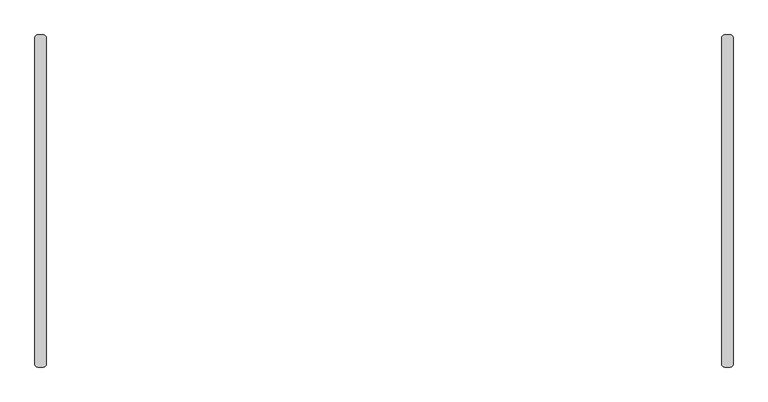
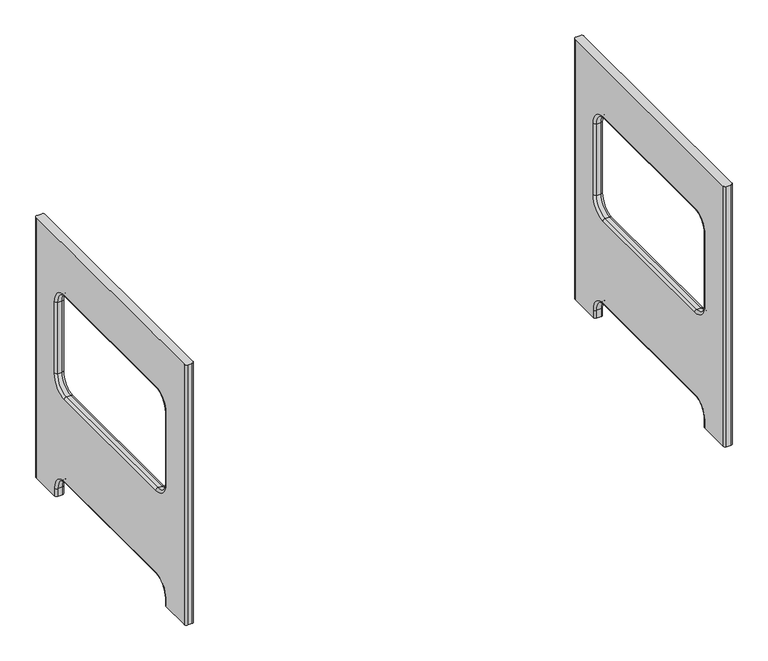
"""IFC4 building model written with IfcOpenShell, lengths in millimetres: furniture geometry, SSL-Childcraft_Outdoor-Table-Rectangle : 2161362."""

from ifc_helpers import new_model, si_unit, point, frame, origin, place, context, project, spatial, polyline, circle_curve, ellipse_curve, trimmed, source, transform, mapped, element, save
from ifc_brep_helpers import plane_surface, cylinder_surface, revolved_surface, advanced_brep


def furniture_fb746d1f(model_context):
    return source(origin(), model_context, "Body", "AdvancedBrep", [
        advanced_brep(
        [(-573.0875, 279.4, 590.55), (-582.6125, 279.4, 590.55), (-587.375, 274.6375, 590.55), (-587.375, -274.6375, 590.55), (-582.6125, -279.4, 590.55), (-573.0875, -279.4, 590.55), (-568.325, -274.6375, 590.55), (-568.325, 274.6375, 590.55), (-573.0875, 279.4, 0.0), (-568.325, 274.6375, 0.0), (-568.325, 207.16875, 0.0), (-573.0875, 202.40625, 0.0), (-582.6125, 202.40625, 0.0), (-587.375, 207.16875, 0.0), (-587.375, 274.6375, 0.0), (-582.6125, 279.4, 0.0), (-573.0875, -279.4, 0.0), (-582.6125, -279.4, 0.0), (-587.375, -274.6375, 0.0), (-587.375, -207.16875, 0.0), (-582.6125, -202.40625, 0.0), (-573.0875, -202.40625, 0.0), (-568.325, -207.16875, 0.0), (-568.325, -274.6375, 0.0), (-587.375, 207.16875, 17.4625), (-587.375, 169.8625, 54.76875), (-587.375, -169.8625, 54.76875), (-587.375, -207.16875, 17.4625), (-587.375, -169.8625, 477.04375), (-587.375, -207.16875, 439.7375), (-587.375, -207.16875, 277.8125), (-587.375, -169.8625, 240.50625), (-587.375, 169.8625, 240.50625), (-587.375, 207.16875, 277.8125), (-587.375, 207.16875, 439.7375), (-587.375, 169.8625, 477.04375), (-568.325, -207.16875, 17.4625), (-568.325, -169.8625, 54.76875), (-568.325, 169.8625, 54.76875), (-568.325, 207.16875, 17.4625), (-568.325, -207.16875, 439.7375), (-568.325, -169.8625, 477.04375), (-568.325, 169.8625, 477.04375), (-568.325, 207.16875, 439.7375), (-568.325, 207.16875, 277.8125), (-568.325, 169.8625, 240.50625), (-568.325, -169.8625, 240.50625), (-568.325, -207.16875, 277.8125), (-582.6125, -202.40625, 17.4625), (-573.0875, -202.40625, 17.4625), (-582.6125, -169.8625, 50.00625), (-573.0875, -169.8625, 50.00625), (-582.6125, 169.8625, 50.00625), (-573.0875, 169.8625, 50.00625), (-582.6125, 202.40625, 17.4625), (-573.0875, 202.40625, 17.4625), (-573.0875, -202.40625, 439.7375), (-573.0875, -169.8625, 472.28125), (-582.6125, -202.40625, 439.7375), (-582.6125, -169.8625, 472.28125), (-573.0875, -202.40625, 277.8125), (-582.6125, -202.40625, 277.8125), (-573.0875, -169.8625, 245.26875), (-582.6125, -169.8625, 245.26875), (-573.0875, 169.8625, 245.26875), (-582.6125, 169.8625, 245.26875), (-573.0875, 202.40625, 277.8125), (-582.6125, 202.40625, 277.8125), (-573.0875, 202.40625, 439.7375), (-582.6125, 202.40625, 439.7375), (-573.0875, 169.8625, 472.28125), (-582.6125, 169.8625, 472.28125)],
        [
            (0, 1),
            (1, 2, circle_curve(frame((-582.6125, 274.6375, 590.55), z_axis=(0.0, 0.0, 1.0), x_axis=(1.0, 0.0, 0.0)), 4.7625)),
            (2, 3),
            (3, 4, circle_curve(frame((-582.6125, -274.6375, 590.55), z_axis=(0.0, 0.0, 1.0), x_axis=(1.0, 0.0, 0.0)), 4.7625)),
            (4, 5),
            (5, 6, circle_curve(frame((-573.0875, -274.6375, 590.55), z_axis=(0.0, 0.0, 1.0), x_axis=(1.0, 0.0, 0.0)), 4.7625)),
            (6, 7),
            (7, 0, circle_curve(frame((-573.0875, 274.6375, 590.55), z_axis=(0.0, 0.0, 1.0), x_axis=(1.0, 0.0, 0.0)), 4.7625)),
            (8, 9, circle_curve(frame((-573.0875, 274.6375, 0.0), z_axis=(0.0, 0.0, -1.0), x_axis=(1.0, 0.0, 0.0)), 4.7625)),
            (9, 10),
            (10, 11, circle_curve(frame((-573.0875, 207.16875, 0.0), z_axis=(0.0, 0.0, -1.0), x_axis=(0.0, 1.0, 0.0)), 4.7625)),
            (11, 12),
            (12, 13, circle_curve(frame((-582.6125, 207.16875, 0.0), z_axis=(0.0, 0.0, -1.0), x_axis=(0.0, 1.0, 0.0)), 4.7625)),
            (13, 14),
            (14, 15, circle_curve(frame((-582.6125, 274.6375, 0.0), z_axis=(0.0, 0.0, -1.0), x_axis=(1.0, 0.0, 0.0)), 4.7625)),
            (15, 8),
            (16, 17),
            (17, 18, circle_curve(frame((-582.6125, -274.6375, 0.0), z_axis=(0.0, 0.0, -1.0), x_axis=(1.0, 0.0, 0.0)), 4.7625)),
            (18, 19),
            (19, 20, circle_curve(frame((-582.6125, -207.16875, 0.0), z_axis=(0.0, 0.0, -1.0), x_axis=(0.0, -1.0, 0.0)), 4.7625)),
            (20, 21),
            (21, 22, circle_curve(frame((-573.0875, -207.16875, 0.0), z_axis=(0.0, 0.0, -1.0), x_axis=(0.0, -1.0, 0.0)), 4.7625)),
            (22, 23),
            (23, 16, circle_curve(frame((-573.0875, -274.6375, 0.0), z_axis=(0.0, 0.0, -1.0), x_axis=(1.0, 0.0, 0.0)), 4.7625)),
            (0, 8),
            (15, 1),
            (14, 2),
            (13, 24),
            (24, 25, circle_curve(frame((-587.375, 169.8625, 17.4625), z_axis=(1.0, 0.0, 0.0), x_axis=(0.0, 0.0, 1.0)), 37.30625)),
            (25, 26),
            (26, 27, circle_curve(frame((-587.375, -169.8625, 17.4625), z_axis=(1.0, 0.0, 0.0), x_axis=(0.0, -1.0, 0.0)), 37.30625)),
            (27, 19),
            (18, 3),
            (28, 29, circle_curve(frame((-587.375, -169.8625, 439.7375), z_axis=(1.0, 0.0, 0.0), x_axis=(0.0, 0.0, 1.0)), 37.30625)),
            (29, 30),
            (30, 31, circle_curve(frame((-587.375, -169.8625, 277.8125), z_axis=(1.0, 0.0, 0.0), x_axis=(0.0, -1.0, 0.0)), 37.30625)),
            (31, 32),
            (32, 33, circle_curve(frame((-587.375, 169.8625, 277.8125), z_axis=(1.0, 0.0, 0.0), x_axis=(0.0, 0.0, -1.0)), 37.30625)),
            (33, 34),
            (34, 35, circle_curve(frame((-587.375, 169.8625, 439.7375), z_axis=(1.0, 0.0, 0.0), x_axis=(0.0, 1.0, 0.0)), 37.30625)),
            (35, 28),
            (9, 7),
            (6, 23),
            (22, 36),
            (36, 37, circle_curve(frame((-568.325, -169.8625, 17.4625), z_axis=(-1.0, 0.0, 0.0), x_axis=(0.0, -1.0, 0.0)), 37.30625)),
            (37, 38),
            (38, 39, circle_curve(frame((-568.325, 169.8625, 17.4625), z_axis=(-1.0, 0.0, 0.0), x_axis=(0.0, 0.0, 1.0)), 37.30625)),
            (39, 10),
            (40, 41, circle_curve(frame((-568.325, -169.8625, 439.7375), z_axis=(-1.0, 0.0, 0.0), x_axis=(0.0, 0.0, 1.0)), 37.30625)),
            (41, 42),
            (42, 43, circle_curve(frame((-568.325, 169.8625, 439.7375), z_axis=(-1.0, 0.0, 0.0), x_axis=(0.0, 1.0, 0.0)), 37.30625)),
            (43, 44),
            (44, 45, circle_curve(frame((-568.325, 169.8625, 277.8125), z_axis=(-1.0, 0.0, 0.0), x_axis=(0.0, 0.0, -1.0)), 37.30625)),
            (45, 46),
            (46, 47, circle_curve(frame((-568.325, -169.8625, 277.8125), z_axis=(-1.0, 0.0, 0.0), x_axis=(0.0, -1.0, 0.0)), 37.30625)),
            (47, 40),
            (5, 16),
            (17, 4),
            (27, 48, circle_curve(frame((-582.6125, -207.16875, 17.4625), z_axis=(0.0, 0.0, -1.0), x_axis=(0.0, -1.0, 0.0)), 4.7625)),
            (48, 20),
            (48, 49),
            (49, 21),
            (49, 36, circle_curve(frame((-573.0875, -207.16875, 17.4625), z_axis=(0.0, 0.0, -1.0), x_axis=(0.0, -1.0, 0.0)), 4.7625)),
            (26, 50, circle_curve(frame((-582.6125, -169.8625, 54.76875), z_axis=(0.0, -1.0, 0.0), x_axis=(0.0, 0.0, 1.0)), 4.7625)),
            (50, 48, circle_curve(frame((-582.6125, -169.8625, 17.4625), z_axis=(1.0, 0.0, 0.0), x_axis=(0.0, -1.0, 0.0)), 32.54375)),
            (50, 51),
            (51, 49, circle_curve(frame((-573.0875, -169.8625, 17.4625), z_axis=(1.0, 0.0, 0.0), x_axis=(0.0, -1.0, 0.0)), 32.54375)),
            (51, 37, circle_curve(frame((-573.0875, -169.8625, 54.76875), z_axis=(0.0, -1.0, 0.0), x_axis=(0.0, 0.0, 1.0)), 4.7625)),
            (25, 52, circle_curve(frame((-582.6125, 169.8625, 54.76875), z_axis=(0.0, -1.0, 0.0), x_axis=(0.0, 0.0, 1.0)), 4.7625)),
            (52, 50),
            (52, 53),
            (53, 51),
            (53, 38, circle_curve(frame((-573.0875, 169.8625, 54.76875), z_axis=(0.0, -1.0, 0.0), x_axis=(0.0, 0.0, 1.0)), 4.7625)),
            (24, 54, circle_curve(frame((-582.6125, 207.16875, 17.4625), z_axis=(0.0, 0.0, 1.0), x_axis=(0.0, 1.0, 0.0)), 4.7625)),
            (54, 52, circle_curve(frame((-582.6125, 169.8625, 17.4625), z_axis=(1.0, 0.0, 0.0), x_axis=(0.0, 0.0, 1.0)), 32.54375)),
            (54, 55),
            (55, 53, circle_curve(frame((-573.0875, 169.8625, 17.4625), z_axis=(1.0, 0.0, 0.0), x_axis=(0.0, 0.0, 1.0)), 32.54375)),
            (55, 39, circle_curve(frame((-573.0875, 207.16875, 17.4625), z_axis=(0.0, 0.0, 1.0), x_axis=(0.0, 1.0, 0.0)), 4.7625)),
            (12, 54),
            (11, 55),
            (56, 57, circle_curve(frame((-573.0875, -169.8625, 439.7375), z_axis=(-1.0, 0.0, 0.0), x_axis=(0.0, 0.0, 1.0)), 32.54375)),
            (57, 41, circle_curve(frame((-573.0875, -169.8625, 477.04375), z_axis=(0.0, -1.0, 0.0), x_axis=(0.0, 0.0, -1.0)), 4.7625)),
            (40, 56, circle_curve(frame((-573.0875, -207.16875, 439.7375), z_axis=(0.0, 0.0, 1.0), x_axis=(0.0, 1.0, 0.0)), 4.7625)),
            (56, 58),
            (58, 59, circle_curve(frame((-582.6125, -169.8625, 439.7375), z_axis=(-1.0, 0.0, 0.0), x_axis=(0.0, 0.0, 1.0)), 32.54375)),
            (59, 57),
            (58, 29, circle_curve(frame((-582.6125, -207.16875, 439.7375), z_axis=(0.0, 0.0, 1.0), x_axis=(0.0, 1.0, 0.0)), 4.7625)),
            (28, 59, circle_curve(frame((-582.6125, -169.8625, 477.04375), z_axis=(0.0, -1.0, 0.0), x_axis=(0.0, 0.0, -1.0)), 4.7625)),
            (47, 60, circle_curve(frame((-573.0875, -207.16875, 277.8125), z_axis=(0.0, 0.0, 1.0), x_axis=(0.0, 1.0, 0.0)), 4.7625)),
            (60, 56),
            (60, 61),
            (61, 58),
            (61, 30, circle_curve(frame((-582.6125, -207.16875, 277.8125), z_axis=(0.0, 0.0, 1.0), x_axis=(0.0, 1.0, 0.0)), 4.7625)),
            (46, 62, circle_curve(frame((-573.0875, -169.8625, 240.50625), z_axis=(0.0, -1.0, 0.0), x_axis=(0.0, 0.0, 1.0)), 4.7625)),
            (62, 60, circle_curve(frame((-573.0875, -169.8625, 277.8125), z_axis=(-1.0, 0.0, 0.0), x_axis=(0.0, -1.0, 0.0)), 32.54375)),
            (62, 63),
            (63, 61, circle_curve(frame((-582.6125, -169.8625, 277.8125), z_axis=(-1.0, 0.0, 0.0), x_axis=(0.0, -1.0, 0.0)), 32.54375)),
            (63, 31, circle_curve(frame((-582.6125, -169.8625, 240.50625), z_axis=(0.0, -1.0, 0.0), x_axis=(0.0, 0.0, 1.0)), 4.7625)),
            (45, 64, circle_curve(frame((-573.0875, 169.8625, 240.50625), z_axis=(0.0, -1.0, 0.0), x_axis=(0.0, 0.0, 1.0)), 4.7625)),
            (64, 62),
            (64, 65),
            (65, 63),
            (65, 32, circle_curve(frame((-582.6125, 169.8625, 240.50625), z_axis=(0.0, -1.0, 0.0), x_axis=(0.0, 0.0, 1.0)), 4.7625)),
            (44, 66, circle_curve(frame((-573.0875, 207.16875, 277.8125), z_axis=(0.0, 0.0, -1.0), x_axis=(0.0, -1.0, 0.0)), 4.7625)),
            (66, 64, circle_curve(frame((-573.0875, 169.8625, 277.8125), z_axis=(-1.0, 0.0, 0.0), x_axis=(0.0, 0.0, -1.0)), 32.54375)),
            (66, 67),
            (67, 65, circle_curve(frame((-582.6125, 169.8625, 277.8125), z_axis=(-1.0, 0.0, 0.0), x_axis=(0.0, 0.0, -1.0)), 32.54375)),
            (67, 33, circle_curve(frame((-582.6125, 207.16875, 277.8125), z_axis=(0.0, 0.0, -1.0), x_axis=(0.0, -1.0, 0.0)), 4.7625)),
            (43, 68, circle_curve(frame((-573.0875, 207.16875, 439.7375), z_axis=(0.0, 0.0, -1.0), x_axis=(0.0, -1.0, 0.0)), 4.7625)),
            (68, 66),
            (68, 69),
            (69, 67),
            (69, 34, circle_curve(frame((-582.6125, 207.16875, 439.7375), z_axis=(0.0, 0.0, -1.0), x_axis=(0.0, -1.0, 0.0)), 4.7625)),
            (42, 70, circle_curve(frame((-573.0875, 169.8625, 477.04375), z_axis=(0.0, 1.0, 0.0), x_axis=(0.0, 0.0, -1.0)), 4.7625)),
            (70, 68, circle_curve(frame((-573.0875, 169.8625, 439.7375), z_axis=(-1.0, 0.0, 0.0), x_axis=(0.0, 1.0, 0.0)), 32.54375)),
            (70, 71),
            (71, 69, circle_curve(frame((-582.6125, 169.8625, 439.7375), z_axis=(-1.0, 0.0, 0.0), x_axis=(0.0, 1.0, 0.0)), 32.54375)),
            (71, 35, circle_curve(frame((-582.6125, 169.8625, 477.04375), z_axis=(0.0, 1.0, 0.0), x_axis=(0.0, 0.0, -1.0)), 4.7625)),
            (57, 70),
            (59, 71),
        ],
        [
            plane_surface(frame((-582.6125, 279.4, 590.55), z_axis=(0.0, 0.0, 1.0), x_axis=(-1.0, 0.0, 0.0))),
            plane_surface(frame((-582.6125, 279.4, 0.0), z_axis=(0.0, 0.0, -1.0), x_axis=(1.0, 0.0, 0.0))),
            plane_surface(frame((-573.0875, 279.4, 590.55), z_axis=(0.0, 1.0, 0.0), x_axis=(0.0, 0.0, -1.0))),
            cylinder_surface(frame((-582.6125, 274.6375, 0.0), z_axis=(0.0, 0.0, 1.0), x_axis=(1.0, 0.0, 0.0)), 4.7625),
            plane_surface(frame((-587.375, 274.6375, 590.55), z_axis=(-1.0, 0.0, 0.0), x_axis=(0.0, 0.0, -1.0))),
            plane_surface(frame((-568.325, 273.84375, 590.55), z_axis=(1.0, 0.0, 0.0), x_axis=(0.0, 0.0, -1.0))),
            cylinder_surface(frame((-573.0875, 274.6375, 0.0), z_axis=(0.0, 0.0, 1.0), x_axis=(1.0, 0.0, 0.0)), 4.7625),
            cylinder_surface(frame((-573.0875, -274.6375, 0.0), z_axis=(0.0, 0.0, 1.0), x_axis=(1.0, 0.0, 0.0)), 4.7625),
            cylinder_surface(frame((-582.6125, -274.6375, 0.0), z_axis=(0.0, 0.0, 1.0), x_axis=(1.0, 0.0, 0.0)), 4.7625),
            plane_surface(frame((-582.6125, -279.4, 590.55), z_axis=(0.0, -1.0, 0.0), x_axis=(0.0, 0.0, -1.0))),
            cylinder_surface(frame((-582.6125, -207.16875, 0.0), z_axis=(0.0, 0.0, -1.0), x_axis=(0.0, -1.0, 0.0)), 4.7625),
            plane_surface(frame((-582.6125, -202.40625, 0.0), z_axis=(0.0, 1.0, 0.0), x_axis=(0.0, 0.0, 1.0))),
            cylinder_surface(frame((-573.0875, -207.16875, 0.0), z_axis=(0.0, 0.0, -1.0), x_axis=(0.0, -1.0, 0.0)), 4.7625),
            revolved_surface(trimmed(ellipse_curve(frame((-582.6125, -207.16875, 17.4625), z_axis=(0.0, 0.0, -1.0), x_axis=(0.0, -1.0, 0.0)), 4.7625, 4.7625), [point((-587.375, -207.16875, 17.4625))], [point((-582.6125, -202.40625, 17.4625))], True, "CARTESIAN"), (0.0, -169.8625, 17.4625), (-1.0, 0.0, 0.0)),
            revolved_surface(polyline([(-582.6125, -202.40625, 17.4625), (-573.0875, -202.40625, 17.4625)]), (0.0, -169.8625, 17.4625), (-1.0, 0.0, 0.0)),
            revolved_surface(trimmed(ellipse_curve(frame((-573.0875, -207.16875, 17.4625), z_axis=(0.0, 0.0, -1.0), x_axis=(0.0, -1.0, 0.0)), 4.7625, 4.7625), [point((-573.0875, -202.40625, 17.4625))], [point((-568.325, -207.16875, 17.4625))], True, "CARTESIAN"), (0.0, -169.8625, 17.4625), (-1.0, 0.0, 0.0)),
            cylinder_surface(frame((-582.6125, -169.8625, 54.76875), z_axis=(0.0, -1.0, 0.0), x_axis=(0.0, 0.0, 1.0)), 4.7625),
            plane_surface(frame((-582.6125, -169.8625, 50.00625), z_axis=(0.0, 0.0, -1.0), x_axis=(0.0, 1.0, 0.0))),
            cylinder_surface(frame((-573.0875, -169.8625, 54.76875), z_axis=(0.0, -1.0, 0.0), x_axis=(0.0, 0.0, 1.0)), 4.7625),
            revolved_surface(trimmed(ellipse_curve(frame((-582.6125, 169.8625, 54.76875), z_axis=(0.0, -1.0, 0.0), x_axis=(0.0, 0.0, 1.0)), 4.7625, 4.7625), [point((-587.375, 169.8625, 54.76875))], [point((-582.6125, 169.8625, 50.00625))], True, "CARTESIAN"), (0.0, 169.8625, 17.4625), (-1.0, 0.0, 0.0)),
            revolved_surface(polyline([(-582.6125, 169.8625, 50.00625), (-573.0875, 169.8625, 50.00625)]), (0.0, 169.8625, 17.4625), (-1.0, 0.0, 0.0)),
            revolved_surface(trimmed(ellipse_curve(frame((-573.0875, 169.8625, 54.76875), z_axis=(0.0, -1.0, 0.0), x_axis=(0.0, 0.0, 1.0)), 4.7625, 4.7625), [point((-573.0875, 169.8625, 50.00625))], [point((-568.325, 169.8625, 54.76875))], True, "CARTESIAN"), (0.0, 169.8625, 17.4625), (-1.0, 0.0, 0.0)),
            cylinder_surface(frame((-582.6125, 207.16875, 17.4625), z_axis=(0.0, 0.0, 1.0), x_axis=(0.0, 1.0, 0.0)), 4.7625),
            plane_surface(frame((-582.6125, 202.40625, 17.4625), z_axis=(0.0, -1.0, 0.0), x_axis=(0.0, 0.0, -1.0))),
            cylinder_surface(frame((-573.0875, 207.16875, 17.4625), z_axis=(0.0, 0.0, 1.0), x_axis=(0.0, 1.0, 0.0)), 4.7625),
            revolved_surface(trimmed(ellipse_curve(frame((-573.0875, -169.8625, 477.04375), z_axis=(0.0, 1.0, 0.0), x_axis=(0.0, 0.0, -1.0)), 4.7625, 4.7625), [point((-568.325, -169.8625, 477.04375))], [point((-573.0875, -169.8625, 472.28125))], True, "CARTESIAN"), (0.0, -169.8625, 439.7375), (1.0, 0.0, 0.0)),
            revolved_surface(polyline([(-573.0875, -169.8625, 472.28125), (-582.6125, -169.8625, 472.28125)]), (0.0, -169.8625, 439.7375), (1.0, 0.0, 0.0)),
            revolved_surface(trimmed(ellipse_curve(frame((-582.6125, -169.8625, 477.04375), z_axis=(0.0, 1.0, 0.0), x_axis=(0.0, 0.0, -1.0)), 4.7625, 4.7625), [point((-582.6125, -169.8625, 472.28125))], [point((-587.375, -169.8625, 477.04375))], True, "CARTESIAN"), (0.0, -169.8625, 439.7375), (1.0, 0.0, 0.0)),
            cylinder_surface(frame((-573.0875, -207.16875, 439.7375), z_axis=(0.0, 0.0, 1.0), x_axis=(0.0, 1.0, 0.0)), 4.7625),
            plane_surface(frame((-573.0875, -202.40625, 439.7375), z_axis=(0.0, 1.0, 0.0), x_axis=(0.0, 0.0, -1.0))),
            cylinder_surface(frame((-582.6125, -207.16875, 439.7375), z_axis=(0.0, 0.0, 1.0), x_axis=(0.0, 1.0, 0.0)), 4.7625),
            revolved_surface(trimmed(ellipse_curve(frame((-573.0875, -207.16875, 277.8125), z_axis=(0.0, 0.0, 1.0), x_axis=(0.0, 1.0, 0.0)), 4.7625, 4.7625), [point((-568.325, -207.16875, 277.8125))], [point((-573.0875, -202.40625, 277.8125))], True, "CARTESIAN"), (0.0, -169.8625, 277.8125), (1.0, 0.0, 0.0)),
            revolved_surface(polyline([(-573.0875, -202.40625, 277.8125), (-582.6125, -202.40625, 277.8125)]), (0.0, -169.8625, 277.8125), (1.0, 0.0, 0.0)),
            revolved_surface(trimmed(ellipse_curve(frame((-582.6125, -207.16875, 277.8125), z_axis=(0.0, 0.0, 1.0), x_axis=(0.0, 1.0, 0.0)), 4.7625, 4.7625), [point((-582.6125, -202.40625, 277.8125))], [point((-587.375, -207.16875, 277.8125))], True, "CARTESIAN"), (0.0, -169.8625, 277.8125), (1.0, 0.0, 0.0)),
            cylinder_surface(frame((-573.0875, -169.8625, 240.50625), z_axis=(0.0, -1.0, 0.0), x_axis=(0.0, 0.0, 1.0)), 4.7625),
            plane_surface(frame((-573.0875, -169.8625, 245.26875), z_axis=(0.0, 0.0, 1.0), x_axis=(0.0, 1.0, 0.0))),
            cylinder_surface(frame((-582.6125, -169.8625, 240.50625), z_axis=(0.0, -1.0, 0.0), x_axis=(0.0, 0.0, 1.0)), 4.7625),
            revolved_surface(trimmed(ellipse_curve(frame((-573.0875, 169.8625, 240.50625), z_axis=(0.0, -1.0, 0.0), x_axis=(0.0, 0.0, 1.0)), 4.7625, 4.7625), [point((-568.325, 169.8625, 240.50625))], [point((-573.0875, 169.8625, 245.26875))], True, "CARTESIAN"), (0.0, 169.8625, 277.8125), (1.0, 0.0, 0.0)),
            revolved_surface(polyline([(-573.0875, 169.8625, 245.26875), (-582.6125, 169.8625, 245.26875)]), (0.0, 169.8625, 277.8125), (1.0, 0.0, 0.0)),
            revolved_surface(trimmed(ellipse_curve(frame((-582.6125, 169.8625, 240.50625), z_axis=(0.0, -1.0, 0.0), x_axis=(0.0, 0.0, 1.0)), 4.7625, 4.7625), [point((-582.6125, 169.8625, 245.26875))], [point((-587.375, 169.8625, 240.50625))], True, "CARTESIAN"), (0.0, 169.8625, 277.8125), (1.0, 0.0, 0.0)),
            cylinder_surface(frame((-573.0875, 207.16875, 277.8125), z_axis=(0.0, 0.0, -1.0), x_axis=(0.0, -1.0, 0.0)), 4.7625),
            plane_surface(frame((-573.0875, 202.40625, 277.8125), z_axis=(0.0, -1.0, 0.0), x_axis=(0.0, 0.0, 1.0))),
            cylinder_surface(frame((-582.6125, 207.16875, 277.8125), z_axis=(0.0, 0.0, -1.0), x_axis=(0.0, -1.0, 0.0)), 4.7625),
            revolved_surface(trimmed(ellipse_curve(frame((-573.0875, 207.16875, 439.7375), z_axis=(0.0, 0.0, -1.0), x_axis=(0.0, -1.0, 0.0)), 4.7625, 4.7625), [point((-568.325, 207.16875, 439.7375))], [point((-573.0875, 202.40625, 439.7375))], True, "CARTESIAN"), (0.0, 169.8625, 439.7375), (1.0, 0.0, 0.0)),
            revolved_surface(polyline([(-573.0875, 202.40625, 439.7375), (-582.6125, 202.40625, 439.7375)]), (0.0, 169.8625, 439.7375), (1.0, 0.0, 0.0)),
            revolved_surface(trimmed(ellipse_curve(frame((-582.6125, 207.16875, 439.7375), z_axis=(0.0, 0.0, -1.0), x_axis=(0.0, -1.0, 0.0)), 4.7625, 4.7625), [point((-582.6125, 202.40625, 439.7375))], [point((-587.375, 207.16875, 439.7375))], True, "CARTESIAN"), (0.0, 169.8625, 439.7375), (1.0, 0.0, 0.0)),
            cylinder_surface(frame((-573.0875, 169.8625, 477.04375), z_axis=(0.0, 1.0, 0.0), x_axis=(0.0, 0.0, -1.0)), 4.7625),
            plane_surface(frame((-573.0875, 169.8625, 472.28125), z_axis=(0.0, 0.0, -1.0), x_axis=(0.0, -1.0, 0.0))),
            cylinder_surface(frame((-582.6125, 169.8625, 477.04375), z_axis=(0.0, 1.0, 0.0), x_axis=(0.0, 0.0, -1.0)), 4.7625),
        ],
        [
            (0, [[1, 2, 3, 4, 5, 6, 7, 8]]),
            (1, [[9, 10, 11, 12, 13, 14, 15, 16]]),
            (1, [[17, 18, 19, 20, 21, 22, 23, 24]]),
            (2, [[-1, 25, -16, 26]]),
            (3, [[-2, -26, -15, 27]]),
            (4, [[-27, -14, 28, 29, 30, 31, 32, -19, 33, -3], [34, 35, 36, 37, 38, 39, 40, 41]]),
            (5, [[42, -7, 43, -23, 44, 45, 46, 47, 48, -10], [49, 50, 51, 52, 53, 54, 55, 56]]),
            (6, [[-8, -42, -9, -25]]),
            (7, [[-6, 57, -24, -43]]),
            (8, [[-4, -33, -18, 58]]),
            (9, [[-5, -58, -17, -57]]),
            (10, [[-20, -32, 59, 60]]),
            (11, [[-21, -60, 61, 62]]),
            (12, [[-22, -62, 63, -44]]),
            (13, [[-31, 64, 65, -59]]),
            (14, [[-61, -65, 66, 67]]),
            (15, [[-63, -67, 68, -45]]),
            (16, [[-30, 69, 70, -64]]),
            (17, [[-66, -70, 71, 72]]),
            (18, [[-46, -68, -72, 73]]),
            (19, [[-29, 74, 75, -69]]),
            (20, [[-71, -75, 76, 77]]),
            (21, [[-47, -73, -77, 78]]),
            (22, [[-28, -13, 79, -74]]),
            (23, [[-76, -79, -12, 80]]),
            (24, [[-48, -78, -80, -11]]),
            (25, [[81, 82, -49, 83]]),
            (26, [[-81, 84, 85, 86]]),
            (27, [[-85, 87, -34, 88]]),
            (28, [[-83, -56, 89, 90]]),
            (29, [[-84, -90, 91, 92]]),
            (30, [[-87, -92, 93, -35]]),
            (31, [[-89, -55, 94, 95]]),
            (32, [[-91, -95, 96, 97]]),
            (33, [[-93, -97, 98, -36]]),
            (34, [[-94, -54, 99, 100]]),
            (35, [[-96, -100, 101, 102]]),
            (36, [[-98, -102, 103, -37]]),
            (37, [[-99, -53, 104, 105]]),
            (38, [[-101, -105, 106, 107]]),
            (39, [[-103, -107, 108, -38]]),
            (40, [[-104, -52, 109, 110]]),
            (41, [[-106, -110, 111, 112]]),
            (42, [[-108, -112, 113, -39]]),
            (43, [[-109, -51, 114, 115]]),
            (44, [[-111, -115, 116, 117]]),
            (45, [[-113, -117, 118, -40]]),
            (46, [[-82, 119, -114, -50]]),
            (47, [[-86, 120, -116, -119]]),
            (48, [[-88, -41, -118, -120]]),
        ],
    ),
        advanced_brep(
        [(573.0875, 279.4, 590.55), (568.325, 274.6375, 590.55), (568.325, -274.6375, 590.55), (573.0875, -279.4, 590.55), (582.6125, -279.4, 590.55), (587.375, -274.6375, 590.55), (587.375, 274.6375, 590.55), (582.6125, 279.4, 590.55), (573.0875, 279.4, 0.0), (582.6125, 279.4, 0.0), (587.375, 274.6375, 0.0), (587.375, 207.16875, 0.0), (582.6125, 202.40625, 0.0), (573.0875, 202.40625, 0.0), (568.325, 207.16875, 0.0), (568.325, 274.6375, 0.0), (568.325, -207.16875, 0.0), (573.0875, -202.40625, 0.0), (582.6125, -202.40625, 0.0), (587.375, -207.16875, 0.0), (587.375, -274.6375, 0.0), (582.6125, -279.4, 0.0), (573.0875, -279.4, 0.0), (568.325, -274.6375, 0.0), (568.325, 207.16875, 17.4625), (568.325, 169.8625, 54.76875), (568.325, -169.8625, 54.76875), (568.325, -207.16875, 17.4625), (568.325, -169.8625, 477.04375), (568.325, -207.16875, 439.7375), (568.325, -207.16875, 277.8125), (568.325, -169.8625, 240.50625), (568.325, 169.8625, 240.50625), (568.325, 207.16875, 277.8125), (568.325, 207.16875, 439.7375), (568.325, 169.8625, 477.04375), (587.375, -207.16875, 17.4625), (587.375, -169.8625, 54.76875), (587.375, 169.8625, 54.76875), (587.375, 207.16875, 17.4625), (587.375, -207.16875, 439.7375), (587.375, -169.8625, 477.04375), (587.375, 169.8625, 477.04375), (587.375, 207.16875, 439.7375), (587.375, 207.16875, 277.8125), (587.375, 169.8625, 240.50625), (587.375, -169.8625, 240.50625), (587.375, -207.16875, 277.8125), (573.0875, -202.40625, 17.4625), (582.6125, -202.40625, 17.4625), (573.0875, -169.8625, 50.00625), (582.6125, -169.8625, 50.00625), (573.0875, 169.8625, 50.00625), (582.6125, 169.8625, 50.00625), (573.0875, 202.40625, 17.4625), (582.6125, 202.40625, 17.4625), (582.6125, -202.40625, 439.7375), (582.6125, -169.8625, 472.28125), (573.0875, -202.40625, 439.7375), (573.0875, -169.8625, 472.28125), (582.6125, -202.40625, 277.8125), (573.0875, -202.40625, 277.8125), (582.6125, -169.8625, 245.26875), (573.0875, -169.8625, 245.26875), (582.6125, 169.8625, 245.26875), (573.0875, 169.8625, 245.26875), (582.6125, 202.40625, 277.8125), (573.0875, 202.40625, 277.8125), (582.6125, 202.40625, 439.7375), (573.0875, 202.40625, 439.7375), (582.6125, 169.8625, 472.28125), (573.0875, 169.8625, 472.28125)],
        [
            (0, 1, circle_curve(frame((573.0875, 274.6375, 590.55), z_axis=(0.0, 0.0, 1.0), x_axis=(1.0, 0.0, 0.0)), 4.7625)),
            (1, 2),
            (2, 3, circle_curve(frame((573.0875, -274.6375, 590.55), z_axis=(0.0, 0.0, 1.0), x_axis=(1.0, 0.0, 0.0)), 4.7625)),
            (3, 4),
            (4, 5, circle_curve(frame((582.6125, -274.6375, 590.55), z_axis=(0.0, 0.0, 1.0), x_axis=(1.0, 0.0, 0.0)), 4.7625)),
            (5, 6),
            (6, 7, circle_curve(frame((582.6125, 274.6375, 590.55), z_axis=(0.0, 0.0, 1.0), x_axis=(1.0, 0.0, 0.0)), 4.7625)),
            (7, 0),
            (8, 9),
            (9, 10, circle_curve(frame((582.6125, 274.6375, 0.0), z_axis=(0.0, 0.0, -1.0), x_axis=(1.0, 0.0, 0.0)), 4.7625)),
            (10, 11),
            (11, 12, circle_curve(frame((582.6125, 207.16875, 0.0), z_axis=(0.0, 0.0, -1.0), x_axis=(0.0, 1.0, 0.0)), 4.7625)),
            (12, 13),
            (13, 14, circle_curve(frame((573.0875, 207.16875, 0.0), z_axis=(0.0, 0.0, -1.0), x_axis=(0.0, 1.0, 0.0)), 4.7625)),
            (14, 15),
            (15, 8, circle_curve(frame((573.0875, 274.6375, 0.0), z_axis=(0.0, 0.0, -1.0), x_axis=(1.0, 0.0, 0.0)), 4.7625)),
            (16, 17, circle_curve(frame((573.0875, -207.16875, 0.0), z_axis=(0.0, 0.0, -1.0), x_axis=(0.0, -1.0, 0.0)), 4.7625)),
            (17, 18),
            (18, 19, circle_curve(frame((582.6125, -207.16875, 0.0), z_axis=(0.0, 0.0, -1.0), x_axis=(0.0, -1.0, 0.0)), 4.7625)),
            (19, 20),
            (20, 21, circle_curve(frame((582.6125, -274.6375, 0.0), z_axis=(0.0, 0.0, -1.0), x_axis=(1.0, 0.0, 0.0)), 4.7625)),
            (21, 22),
            (22, 23, circle_curve(frame((573.0875, -274.6375, 0.0), z_axis=(0.0, 0.0, -1.0), x_axis=(1.0, 0.0, 0.0)), 4.7625)),
            (23, 16),
            (0, 8),
            (15, 1),
            (14, 24),
            (24, 25, circle_curve(frame((568.325, 169.8625, 17.4625), z_axis=(1.0, 0.0, 0.0), x_axis=(0.0, 0.0, 1.0)), 37.30625)),
            (25, 26),
            (26, 27, circle_curve(frame((568.325, -169.8625, 17.4625), z_axis=(1.0, 0.0, 0.0), x_axis=(0.0, -1.0, 0.0)), 37.30625)),
            (27, 16),
            (23, 2),
            (28, 29, circle_curve(frame((568.325, -169.8625, 439.7375), z_axis=(1.0, 0.0, 0.0), x_axis=(0.0, 0.0, 1.0)), 37.30625)),
            (29, 30),
            (30, 31, circle_curve(frame((568.325, -169.8625, 277.8125), z_axis=(1.0, 0.0, 0.0), x_axis=(0.0, -1.0, 0.0)), 37.30625)),
            (31, 32),
            (32, 33, circle_curve(frame((568.325, 169.8625, 277.8125), z_axis=(1.0, 0.0, 0.0), x_axis=(0.0, 0.0, -1.0)), 37.30625)),
            (33, 34),
            (34, 35, circle_curve(frame((568.325, 169.8625, 439.7375), z_axis=(1.0, 0.0, 0.0), x_axis=(0.0, 1.0, 0.0)), 37.30625)),
            (35, 28),
            (5, 20),
            (19, 36),
            (36, 37, circle_curve(frame((587.375, -169.8625, 17.4625), z_axis=(-1.0, 0.0, 0.0), x_axis=(0.0, -1.0, 0.0)), 37.30625)),
            (37, 38),
            (38, 39, circle_curve(frame((587.375, 169.8625, 17.4625), z_axis=(-1.0, 0.0, 0.0), x_axis=(0.0, 0.0, 1.0)), 37.30625)),
            (39, 11),
            (10, 6),
            (40, 41, circle_curve(frame((587.375, -169.8625, 439.7375), z_axis=(-1.0, 0.0, 0.0), x_axis=(0.0, 0.0, 1.0)), 37.30625)),
            (41, 42),
            (42, 43, circle_curve(frame((587.375, 169.8625, 439.7375), z_axis=(-1.0, 0.0, 0.0), x_axis=(0.0, 1.0, 0.0)), 37.30625)),
            (43, 44),
            (44, 45, circle_curve(frame((587.375, 169.8625, 277.8125), z_axis=(-1.0, 0.0, 0.0), x_axis=(0.0, 0.0, -1.0)), 37.30625)),
            (45, 46),
            (46, 47, circle_curve(frame((587.375, -169.8625, 277.8125), z_axis=(-1.0, 0.0, 0.0), x_axis=(0.0, -1.0, 0.0)), 37.30625)),
            (47, 40),
            (9, 7),
            (3, 22),
            (21, 4),
            (17, 48),
            (48, 49),
            (49, 18),
            (48, 50, circle_curve(frame((573.0875, -169.8625, 17.4625), z_axis=(-1.0, 0.0, 0.0), x_axis=(0.0, -1.0, 0.0)), 32.54375)),
            (50, 51),
            (51, 49, circle_curve(frame((582.6125, -169.8625, 17.4625), z_axis=(1.0, 0.0, 0.0), x_axis=(0.0, -1.0, 0.0)), 32.54375)),
            (50, 52),
            (52, 53),
            (53, 51),
            (52, 54, circle_curve(frame((573.0875, 169.8625, 17.4625), z_axis=(-1.0, 0.0, 0.0), x_axis=(0.0, 0.0, 1.0)), 32.54375)),
            (54, 55),
            (55, 53, circle_curve(frame((582.6125, 169.8625, 17.4625), z_axis=(1.0, 0.0, 0.0), x_axis=(0.0, 0.0, 1.0)), 32.54375)),
            (54, 13),
            (12, 55),
            (27, 48, circle_curve(frame((573.0875, -207.16875, 17.4625), z_axis=(0.0, 0.0, -1.0), x_axis=(0.0, -1.0, 0.0)), 4.7625)),
            (49, 36, circle_curve(frame((582.6125, -207.16875, 17.4625), z_axis=(0.0, 0.0, -1.0), x_axis=(0.0, -1.0, 0.0)), 4.7625)),
            (26, 50, circle_curve(frame((573.0875, -169.8625, 54.76875), z_axis=(0.0, -1.0, 0.0), x_axis=(0.0, 0.0, 1.0)), 4.7625)),
            (51, 37, circle_curve(frame((582.6125, -169.8625, 54.76875), z_axis=(0.0, -1.0, 0.0), x_axis=(0.0, 0.0, 1.0)), 4.7625)),
            (25, 52, circle_curve(frame((573.0875, 169.8625, 54.76875), z_axis=(0.0, -1.0, 0.0), x_axis=(0.0, 0.0, 1.0)), 4.7625)),
            (53, 38, circle_curve(frame((582.6125, 169.8625, 54.76875), z_axis=(0.0, -1.0, 0.0), x_axis=(0.0, 0.0, 1.0)), 4.7625)),
            (24, 54, circle_curve(frame((573.0875, 207.16875, 17.4625), z_axis=(0.0, 0.0, 1.0), x_axis=(0.0, 1.0, 0.0)), 4.7625)),
            (55, 39, circle_curve(frame((582.6125, 207.16875, 17.4625), z_axis=(0.0, 0.0, 1.0), x_axis=(0.0, 1.0, 0.0)), 4.7625)),
            (56, 57, circle_curve(frame((582.6125, -169.8625, 439.7375), z_axis=(-1.0, 0.0, 0.0), x_axis=(0.0, 0.0, 1.0)), 32.54375)),
            (57, 41, circle_curve(frame((582.6125, -169.8625, 477.04375), z_axis=(0.0, -1.0, 0.0), x_axis=(0.0, 0.0, -1.0)), 4.7625)),
            (40, 56, circle_curve(frame((582.6125, -207.16875, 439.7375), z_axis=(0.0, 0.0, 1.0), x_axis=(0.0, 1.0, 0.0)), 4.7625)),
            (56, 58),
            (58, 59, circle_curve(frame((573.0875, -169.8625, 439.7375), z_axis=(-1.0, 0.0, 0.0), x_axis=(0.0, 0.0, 1.0)), 32.54375)),
            (59, 57),
            (58, 29, circle_curve(frame((573.0875, -207.16875, 439.7375), z_axis=(0.0, 0.0, 1.0), x_axis=(0.0, 1.0, 0.0)), 4.7625)),
            (28, 59, circle_curve(frame((573.0875, -169.8625, 477.04375), z_axis=(0.0, -1.0, 0.0), x_axis=(0.0, 0.0, -1.0)), 4.7625)),
            (47, 60, circle_curve(frame((582.6125, -207.16875, 277.8125), z_axis=(0.0, 0.0, 1.0), x_axis=(0.0, 1.0, 0.0)), 4.7625)),
            (60, 56),
            (60, 61),
            (61, 58),
            (61, 30, circle_curve(frame((573.0875, -207.16875, 277.8125), z_axis=(0.0, 0.0, 1.0), x_axis=(0.0, 1.0, 0.0)), 4.7625)),
            (46, 62, circle_curve(frame((582.6125, -169.8625, 240.50625), z_axis=(0.0, -1.0, 0.0), x_axis=(0.0, 0.0, 1.0)), 4.7625)),
            (62, 60, circle_curve(frame((582.6125, -169.8625, 277.8125), z_axis=(-1.0, 0.0, 0.0), x_axis=(0.0, -1.0, 0.0)), 32.54375)),
            (62, 63),
            (63, 61, circle_curve(frame((573.0875, -169.8625, 277.8125), z_axis=(-1.0, 0.0, 0.0), x_axis=(0.0, -1.0, 0.0)), 32.54375)),
            (63, 31, circle_curve(frame((573.0875, -169.8625, 240.50625), z_axis=(0.0, -1.0, 0.0), x_axis=(0.0, 0.0, 1.0)), 4.7625)),
            (45, 64, circle_curve(frame((582.6125, 169.8625, 240.50625), z_axis=(0.0, -1.0, 0.0), x_axis=(0.0, 0.0, 1.0)), 4.7625)),
            (64, 62),
            (64, 65),
            (65, 63),
            (65, 32, circle_curve(frame((573.0875, 169.8625, 240.50625), z_axis=(0.0, -1.0, 0.0), x_axis=(0.0, 0.0, 1.0)), 4.7625)),
            (44, 66, circle_curve(frame((582.6125, 207.16875, 277.8125), z_axis=(0.0, 0.0, -1.0), x_axis=(0.0, -1.0, 0.0)), 4.7625)),
            (66, 64, circle_curve(frame((582.6125, 169.8625, 277.8125), z_axis=(-1.0, 0.0, 0.0), x_axis=(0.0, 0.0, -1.0)), 32.54375)),
            (66, 67),
            (67, 65, circle_curve(frame((573.0875, 169.8625, 277.8125), z_axis=(-1.0, 0.0, 0.0), x_axis=(0.0, 0.0, -1.0)), 32.54375)),
            (67, 33, circle_curve(frame((573.0875, 207.16875, 277.8125), z_axis=(0.0, 0.0, -1.0), x_axis=(0.0, -1.0, 0.0)), 4.7625)),
            (43, 68, circle_curve(frame((582.6125, 207.16875, 439.7375), z_axis=(0.0, 0.0, -1.0), x_axis=(0.0, -1.0, 0.0)), 4.7625)),
            (68, 66),
            (68, 69),
            (69, 67),
            (69, 34, circle_curve(frame((573.0875, 207.16875, 439.7375), z_axis=(0.0, 0.0, -1.0), x_axis=(0.0, -1.0, 0.0)), 4.7625)),
            (42, 70, circle_curve(frame((582.6125, 169.8625, 477.04375), z_axis=(0.0, 1.0, 0.0), x_axis=(0.0, 0.0, -1.0)), 4.7625)),
            (70, 68, circle_curve(frame((582.6125, 169.8625, 439.7375), z_axis=(-1.0, 0.0, 0.0), x_axis=(0.0, 1.0, 0.0)), 32.54375)),
            (70, 71),
            (71, 69, circle_curve(frame((573.0875, 169.8625, 439.7375), z_axis=(-1.0, 0.0, 0.0), x_axis=(0.0, 1.0, 0.0)), 32.54375)),
            (71, 35, circle_curve(frame((573.0875, 169.8625, 477.04375), z_axis=(0.0, 1.0, 0.0), x_axis=(0.0, 0.0, -1.0)), 4.7625)),
            (57, 70),
            (59, 71),
        ],
        [
            plane_surface(frame((-582.6125, 279.4, 590.55), z_axis=(0.0, 0.0, 1.0), x_axis=(-1.0, 0.0, 0.0))),
            plane_surface(frame((-582.6125, 279.4, 0.0), z_axis=(0.0, 0.0, -1.0), x_axis=(1.0, 0.0, 0.0))),
            cylinder_surface(frame((573.0875, 274.6375, 0.0), z_axis=(0.0, 0.0, 1.0), x_axis=(1.0, 0.0, 0.0)), 4.7625),
            plane_surface(frame((568.325, 274.6375, 590.55), z_axis=(-1.0, 0.0, 0.0), x_axis=(0.0, 0.0, -1.0))),
            plane_surface(frame((587.375, 273.84375, 590.55), z_axis=(1.0, 0.0, 0.0), x_axis=(0.0, 0.0, -1.0))),
            cylinder_surface(frame((582.6125, 274.6375, 0.0), z_axis=(0.0, 0.0, 1.0), x_axis=(1.0, 0.0, 0.0)), 4.7625),
            plane_surface(frame((582.6125, 279.4, 590.55), z_axis=(0.0, 1.0, 0.0), x_axis=(0.0, 0.0, -1.0))),
            plane_surface(frame((573.0875, -279.4, 590.55), z_axis=(0.0, -1.0, 0.0), x_axis=(0.0, 0.0, -1.0))),
            cylinder_surface(frame((582.6125, -274.6375, 0.0), z_axis=(0.0, 0.0, 1.0), x_axis=(1.0, 0.0, 0.0)), 4.7625),
            cylinder_surface(frame((573.0875, -274.6375, 0.0), z_axis=(0.0, 0.0, 1.0), x_axis=(1.0, 0.0, 0.0)), 4.7625),
            plane_surface(frame((573.0875, -202.40625, 0.0), z_axis=(0.0, 1.0, 0.0), x_axis=(0.0, 0.0, 1.0))),
            revolved_surface(polyline([(573.0875, -202.40625, 17.4625), (582.6125, -202.40625, 17.4625)]), (0.0, -169.8625, 17.4625), (-1.0, 0.0, 0.0)),
            plane_surface(frame((573.0875, -169.8625, 50.00625), z_axis=(0.0, 0.0, -1.0), x_axis=(0.0, 1.0, 0.0))),
            revolved_surface(polyline([(573.0875, 169.8625, 50.00625), (582.6125, 169.8625, 50.00625)]), (0.0, 169.8625, 17.4625), (-1.0, 0.0, 0.0)),
            plane_surface(frame((573.0875, 202.40625, 17.4625), z_axis=(0.0, -1.0, 0.0), x_axis=(0.0, 0.0, -1.0))),
            cylinder_surface(frame((573.0875, -207.16875, 0.0), z_axis=(0.0, 0.0, -1.0), x_axis=(0.0, -1.0, 0.0)), 4.7625),
            cylinder_surface(frame((582.6125, -207.16875, 0.0), z_axis=(0.0, 0.0, -1.0), x_axis=(0.0, -1.0, 0.0)), 4.7625),
            revolved_surface(trimmed(ellipse_curve(frame((573.0875, -207.16875, 17.4625), z_axis=(0.0, 0.0, -1.0), x_axis=(0.0, -1.0, 0.0)), 4.7625, 4.7625), [point((568.325, -207.16875, 17.4625))], [point((573.0875, -202.40625, 17.4625))], True, "CARTESIAN"), (0.0, -169.8625, 17.4625), (-1.0, 0.0, 0.0)),
            revolved_surface(trimmed(ellipse_curve(frame((582.6125, -207.16875, 17.4625), z_axis=(0.0, 0.0, -1.0), x_axis=(0.0, -1.0, 0.0)), 4.7625, 4.7625), [point((582.6125, -202.40625, 17.4625))], [point((587.375, -207.16875, 17.4625))], True, "CARTESIAN"), (0.0, -169.8625, 17.4625), (-1.0, 0.0, 0.0)),
            cylinder_surface(frame((573.0875, -169.8625, 54.76875), z_axis=(0.0, -1.0, 0.0), x_axis=(0.0, 0.0, 1.0)), 4.7625),
            cylinder_surface(frame((582.6125, -169.8625, 54.76875), z_axis=(0.0, -1.0, 0.0), x_axis=(0.0, 0.0, 1.0)), 4.7625),
            revolved_surface(trimmed(ellipse_curve(frame((573.0875, 169.8625, 54.76875), z_axis=(0.0, -1.0, 0.0), x_axis=(0.0, 0.0, 1.0)), 4.7625, 4.7625), [point((568.325, 169.8625, 54.76875))], [point((573.0875, 169.8625, 50.00625))], True, "CARTESIAN"), (0.0, 169.8625, 17.4625), (-1.0, 0.0, 0.0)),
            revolved_surface(trimmed(ellipse_curve(frame((582.6125, 169.8625, 54.76875), z_axis=(0.0, -1.0, 0.0), x_axis=(0.0, 0.0, 1.0)), 4.7625, 4.7625), [point((582.6125, 169.8625, 50.00625))], [point((587.375, 169.8625, 54.76875))], True, "CARTESIAN"), (0.0, 169.8625, 17.4625), (-1.0, 0.0, 0.0)),
            cylinder_surface(frame((573.0875, 207.16875, 17.4625), z_axis=(0.0, 0.0, 1.0), x_axis=(0.0, 1.0, 0.0)), 4.7625),
            cylinder_surface(frame((582.6125, 207.16875, 17.4625), z_axis=(0.0, 0.0, 1.0), x_axis=(0.0, 1.0, 0.0)), 4.7625),
            revolved_surface(trimmed(ellipse_curve(frame((582.6125, -169.8625, 477.04375), z_axis=(0.0, 1.0, 0.0), x_axis=(0.0, 0.0, -1.0)), 4.7625, 4.7625), [point((587.375, -169.8625, 477.04375))], [point((582.6125, -169.8625, 472.28125))], True, "CARTESIAN"), (0.0, -169.8625, 439.7375), (1.0, 0.0, 0.0)),
            revolved_surface(polyline([(582.6125, -169.8625, 472.28125), (573.0875, -169.8625, 472.28125)]), (0.0, -169.8625, 439.7375), (1.0, 0.0, 0.0)),
            revolved_surface(trimmed(ellipse_curve(frame((573.0875, -169.8625, 477.04375), z_axis=(0.0, 1.0, 0.0), x_axis=(0.0, 0.0, -1.0)), 4.7625, 4.7625), [point((573.0875, -169.8625, 472.28125))], [point((568.325, -169.8625, 477.04375))], True, "CARTESIAN"), (0.0, -169.8625, 439.7375), (1.0, 0.0, 0.0)),
            cylinder_surface(frame((582.6125, -207.16875, 439.7375), z_axis=(0.0, 0.0, 1.0), x_axis=(0.0, 1.0, 0.0)), 4.7625),
            plane_surface(frame((582.6125, -202.40625, 439.7375), z_axis=(0.0, 1.0, 0.0), x_axis=(0.0, 0.0, -1.0))),
            cylinder_surface(frame((573.0875, -207.16875, 439.7375), z_axis=(0.0, 0.0, 1.0), x_axis=(0.0, 1.0, 0.0)), 4.7625),
            revolved_surface(trimmed(ellipse_curve(frame((582.6125, -207.16875, 277.8125), z_axis=(0.0, 0.0, 1.0), x_axis=(0.0, 1.0, 0.0)), 4.7625, 4.7625), [point((587.375, -207.16875, 277.8125))], [point((582.6125, -202.40625, 277.8125))], True, "CARTESIAN"), (0.0, -169.8625, 277.8125), (1.0, 0.0, 0.0)),
            revolved_surface(polyline([(582.6125, -202.40625, 277.8125), (573.0875, -202.40625, 277.8125)]), (0.0, -169.8625, 277.8125), (1.0, 0.0, 0.0)),
            revolved_surface(trimmed(ellipse_curve(frame((573.0875, -207.16875, 277.8125), z_axis=(0.0, 0.0, 1.0), x_axis=(0.0, 1.0, 0.0)), 4.7625, 4.7625), [point((573.0875, -202.40625, 277.8125))], [point((568.325, -207.16875, 277.8125))], True, "CARTESIAN"), (0.0, -169.8625, 277.8125), (1.0, 0.0, 0.0)),
            cylinder_surface(frame((582.6125, -169.8625, 240.50625), z_axis=(0.0, -1.0, 0.0), x_axis=(0.0, 0.0, 1.0)), 4.7625),
            plane_surface(frame((582.6125, -169.8625, 245.26875), z_axis=(0.0, 0.0, 1.0), x_axis=(0.0, 1.0, 0.0))),
            cylinder_surface(frame((573.0875, -169.8625, 240.50625), z_axis=(0.0, -1.0, 0.0), x_axis=(0.0, 0.0, 1.0)), 4.7625),
            revolved_surface(trimmed(ellipse_curve(frame((582.6125, 169.8625, 240.50625), z_axis=(0.0, -1.0, 0.0), x_axis=(0.0, 0.0, 1.0)), 4.7625, 4.7625), [point((587.375, 169.8625, 240.50625))], [point((582.6125, 169.8625, 245.26875))], True, "CARTESIAN"), (0.0, 169.8625, 277.8125), (1.0, 0.0, 0.0)),
            revolved_surface(polyline([(582.6125, 169.8625, 245.26875), (573.0875, 169.8625, 245.26875)]), (0.0, 169.8625, 277.8125), (1.0, 0.0, 0.0)),
            revolved_surface(trimmed(ellipse_curve(frame((573.0875, 169.8625, 240.50625), z_axis=(0.0, -1.0, 0.0), x_axis=(0.0, 0.0, 1.0)), 4.7625, 4.7625), [point((573.0875, 169.8625, 245.26875))], [point((568.325, 169.8625, 240.50625))], True, "CARTESIAN"), (0.0, 169.8625, 277.8125), (1.0, 0.0, 0.0)),
            cylinder_surface(frame((582.6125, 207.16875, 277.8125), z_axis=(0.0, 0.0, -1.0), x_axis=(0.0, -1.0, 0.0)), 4.7625),
            plane_surface(frame((582.6125, 202.40625, 277.8125), z_axis=(0.0, -1.0, 0.0), x_axis=(0.0, 0.0, 1.0))),
            cylinder_surface(frame((573.0875, 207.16875, 277.8125), z_axis=(0.0, 0.0, -1.0), x_axis=(0.0, -1.0, 0.0)), 4.7625),
            revolved_surface(trimmed(ellipse_curve(frame((582.6125, 207.16875, 439.7375), z_axis=(0.0, 0.0, -1.0), x_axis=(0.0, -1.0, 0.0)), 4.7625, 4.7625), [point((587.375, 207.16875, 439.7375))], [point((582.6125, 202.40625, 439.7375))], True, "CARTESIAN"), (0.0, 169.8625, 439.7375), (1.0, 0.0, 0.0)),
            revolved_surface(polyline([(582.6125, 202.40625, 439.7375), (573.0875, 202.40625, 439.7375)]), (0.0, 169.8625, 439.7375), (1.0, 0.0, 0.0)),
            revolved_surface(trimmed(ellipse_curve(frame((573.0875, 207.16875, 439.7375), z_axis=(0.0, 0.0, -1.0), x_axis=(0.0, -1.0, 0.0)), 4.7625, 4.7625), [point((573.0875, 202.40625, 439.7375))], [point((568.325, 207.16875, 439.7375))], True, "CARTESIAN"), (0.0, 169.8625, 439.7375), (1.0, 0.0, 0.0)),
            cylinder_surface(frame((582.6125, 169.8625, 477.04375), z_axis=(0.0, 1.0, 0.0), x_axis=(0.0, 0.0, -1.0)), 4.7625),
            plane_surface(frame((582.6125, 169.8625, 472.28125), z_axis=(0.0, 0.0, -1.0), x_axis=(0.0, -1.0, 0.0))),
            cylinder_surface(frame((573.0875, 169.8625, 477.04375), z_axis=(0.0, 1.0, 0.0), x_axis=(0.0, 0.0, -1.0)), 4.7625),
        ],
        [
            (0, [[1, 2, 3, 4, 5, 6, 7, 8]]),
            (1, [[9, 10, 11, 12, 13, 14, 15, 16]]),
            (1, [[17, 18, 19, 20, 21, 22, 23, 24]]),
            (2, [[-1, 25, -16, 26]]),
            (3, [[-2, -26, -15, 27, 28, 29, 30, 31, -24, 32], [33, 34, 35, 36, 37, 38, 39, 40]]),
            (4, [[-6, 41, -20, 42, 43, 44, 45, 46, -11, 47], [48, 49, 50, 51, 52, 53, 54, 55]]),
            (5, [[-7, -47, -10, 56]]),
            (6, [[-8, -56, -9, -25]]),
            (7, [[-4, 57, -22, 58]]),
            (8, [[-5, -58, -21, -41]]),
            (9, [[-3, -32, -23, -57]]),
            (10, [[-18, 59, 60, 61]]),
            (11, [[-60, 62, 63, 64]]),
            (12, [[-63, 65, 66, 67]]),
            (13, [[-66, 68, 69, 70]]),
            (14, [[-69, 71, -13, 72]]),
            (15, [[-17, -31, 73, -59]]),
            (16, [[-19, -61, 74, -42]]),
            (17, [[-30, 75, -62, -73]]),
            (18, [[-43, -74, -64, 76]]),
            (19, [[-29, 77, -65, -75]]),
            (20, [[-44, -76, -67, 78]]),
            (21, [[-28, 79, -68, -77]]),
            (22, [[-45, -78, -70, 80]]),
            (23, [[-27, -14, -71, -79]]),
            (24, [[-46, -80, -72, -12]]),
            (25, [[81, 82, -48, 83]]),
            (26, [[-81, 84, 85, 86]]),
            (27, [[-85, 87, -33, 88]]),
            (28, [[-83, -55, 89, 90]]),
            (29, [[-84, -90, 91, 92]]),
            (30, [[-87, -92, 93, -34]]),
            (31, [[-89, -54, 94, 95]]),
            (32, [[-91, -95, 96, 97]]),
            (33, [[-93, -97, 98, -35]]),
            (34, [[-94, -53, 99, 100]]),
            (35, [[-96, -100, 101, 102]]),
            (36, [[-98, -102, 103, -36]]),
            (37, [[-99, -52, 104, 105]]),
            (38, [[-101, -105, 106, 107]]),
            (39, [[-103, -107, 108, -37]]),
            (40, [[-104, -51, 109, 110]]),
            (41, [[-106, -110, 111, 112]]),
            (42, [[-108, -112, 113, -38]]),
            (43, [[-109, -50, 114, 115]]),
            (44, [[-111, -115, 116, 117]]),
            (45, [[-113, -117, 118, -39]]),
            (46, [[-82, 119, -114, -49]]),
            (47, [[-86, 120, -116, -119]]),
            (48, [[-88, -40, -118, -120]]),
        ],
    ),
    ])


if __name__ == "__main__":
    model = new_model("IFC4")
    model_context = context("Model", 3, world=origin())
    ifc_project = project(units=[si_unit("LENGTHUNIT", "METRE", prefix="MILLI")], contexts=[model_context])
    site = spatial("IfcSite", under=ifc_project)
    building = spatial("IfcBuilding", under=site)
    placement = place(None, origin())
    furniture_shape = furniture_fb746d1f(model_context)
    element("IfcFurniture", 1, ObjectType="SSL-Childcraft_Outdoor-Table-Rectangle : 2161362", at=placement, inside=building, context=model_context, shape_type="MappedRepresentation", body=[
        mapped(furniture_shape, transform((0.0, 0.0, 0.0), x_axis=(1.0, 0.0, 0.0), y_axis=(0.0, 1.0, 0.0), z_axis=(0.0, 0.0, 1.0))),
    ])
    save(model, "model.ifc")
